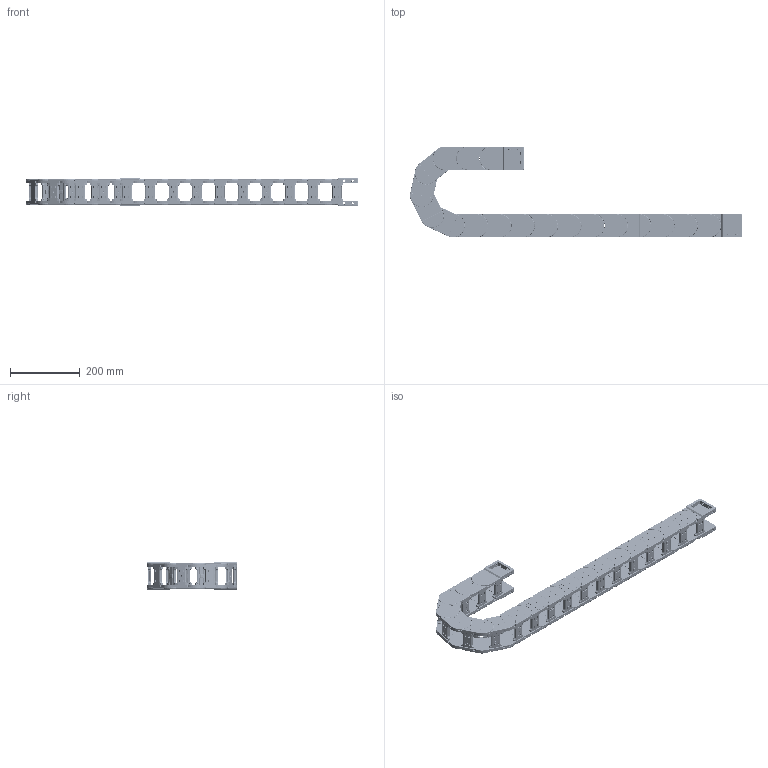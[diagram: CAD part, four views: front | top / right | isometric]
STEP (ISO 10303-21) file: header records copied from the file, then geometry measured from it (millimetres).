
FILE_DESCRIPTION (( 'STEP AP214' ), '1' );
FILE_NAME ('J45Q.1.50S-3D賦凳芞.STEP', '2019-01-10T00:09:42', ( 'Sky123.Org' ), ( 'Sky123.Org' ), 'SwSTEP 2.0', 'SolidWorks 2017', '' );
FILE_SCHEMA (( 'AUTOMOTIVE_DESIGN' ));
Length unit declared in the file: millimetre
Products named in the file (10): 5-N45X100-1; J45.1結え; 45-崝Ч翋极2; 45-崝Ч翋极1-R250; J45Q.1.50S-3D賦凳芞; 5-N45X75-源諉俋; 45-N源諉芛俋; 5-N45X75-源諉囀; 45-臏簽1; 45-N源諉芛囀
Assembly tree (55 placements, depth 3):
  J45Q.1.50S-3D賦凳芞
    5-N45X100-1  x17
      45-崝Ч翋极1-R250
      45-崝Ч翋极2
      J45.1結え
    5-N45X75-源諉囀
      45-N源諉芛囀  x2
      J45.1結え  x2
      45-臏簽1  x12
    5-N45X75-源諉俋
      45-N源諉芛俋  x2
      J45.1結え  x2
      45-臏簽1  x12
Bounding box: 954.91 x 261 x 79 mm (x, y, z)
Volume: 2247195.3 mm3; surface area: 1045651.7 mm2
Topology: 100 solids, 100 shells, 20080 faces, 51658 edges, 31520 vertices
Faces by surface type: plane 7348, cylinder 6440, bspline 3788, torus 1508, sphere 768, cone 228
Entity records: 33152 total; most frequent: CARTESIAN_POINT 10875, ORIENTED_EDGE 4608, DIRECTION 4494, EDGE_CURVE 2304, AXIS2_PLACEMENT_3D 1615, VERTEX_POINT 1438, LINE 1264, VECTOR 1264
